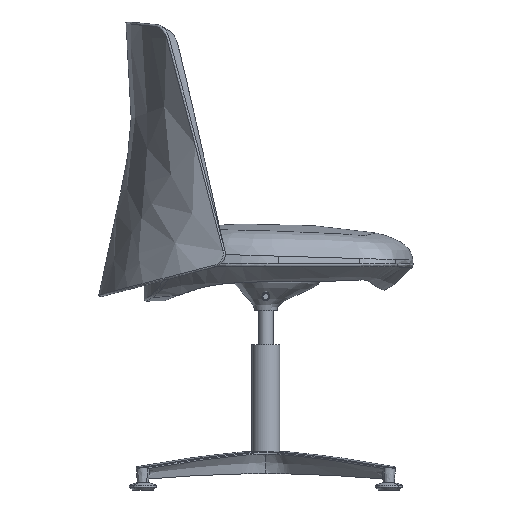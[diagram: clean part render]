
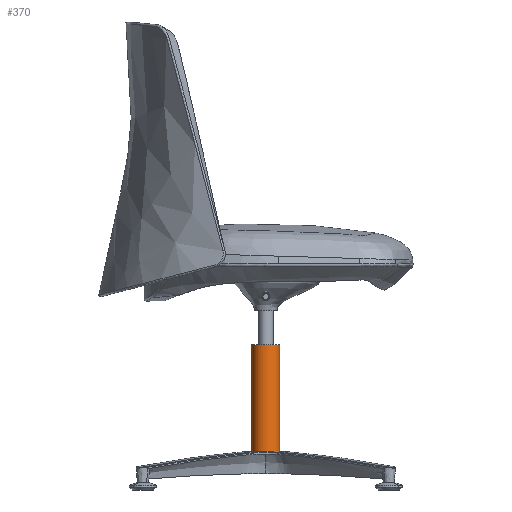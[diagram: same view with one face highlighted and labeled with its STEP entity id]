
A CAD part, left-side view. The second image highlights one B-rep face of the part: STEP entity #370.
In plain terms, the highlighted free-form (B-spline) face has degree [2, 1] with [5, 2] control points.
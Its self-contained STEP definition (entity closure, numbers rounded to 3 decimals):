
#370=ADVANCED_FACE('',(#535),#2333,.T.);
#535=FACE_OUTER_BOUND('',#700,.T.);
#700=EDGE_LOOP('',(#867,#868,#869,#870));
#867=ORIENTED_EDGE('',*,*,#1572,.T.);
#868=ORIENTED_EDGE('',*,*,#1571,.F.);
#869=ORIENTED_EDGE('',*,*,#1570,.F.);
#870=ORIENTED_EDGE('',*,*,#1569,.T.);
#1569=EDGE_CURVE('',#2093,#2094,#1956,.T.);
#1570=EDGE_CURVE('',#2093,#2092,#1957,.T.);
#1571=EDGE_CURVE('',#2092,#2095,#1958,.T.);
#1572=EDGE_CURVE('',#2094,#2095,#1959,.T.);
#1956=(
BOUNDED_CURVE()
B_SPLINE_CURVE(2,(#2651,#2652,#2653,#2654,#2655),.UNSPECIFIED.,.F.,.F.)
B_SPLINE_CURVE_WITH_KNOTS((3,2,3),(0.,39.27,78.54),
 .UNSPECIFIED.)
CURVE()
GEOMETRIC_REPRESENTATION_ITEM()
RATIONAL_B_SPLINE_CURVE((1.,0.707,1.,0.707,1.))
REPRESENTATION_ITEM('')
);
#1957=(
BOUNDED_CURVE()
B_SPLINE_CURVE(1,(#2656,#2657),.UNSPECIFIED.,.F.,.F.)
B_SPLINE_CURVE_WITH_KNOTS((2,2),(0.,200.),.UNSPECIFIED.)
CURVE()
GEOMETRIC_REPRESENTATION_ITEM()
RATIONAL_B_SPLINE_CURVE((1.,1.))
REPRESENTATION_ITEM('')
);
#1958=(
BOUNDED_CURVE()
B_SPLINE_CURVE(2,(#2658,#2659,#2660,#2661,#2662),.UNSPECIFIED.,.F.,.F.)
B_SPLINE_CURVE_WITH_KNOTS((3,2,3),(0.,39.27,78.54),
 .UNSPECIFIED.)
CURVE()
GEOMETRIC_REPRESENTATION_ITEM()
RATIONAL_B_SPLINE_CURVE((1.,0.707,1.,0.707,1.))
REPRESENTATION_ITEM('')
);
#1959=(
BOUNDED_CURVE()
B_SPLINE_CURVE(1,(#2663,#2664),.UNSPECIFIED.,.F.,.F.)
B_SPLINE_CURVE_WITH_KNOTS((2,2),(0.,200.),.UNSPECIFIED.)
CURVE()
GEOMETRIC_REPRESENTATION_ITEM()
RATIONAL_B_SPLINE_CURVE((1.,1.))
REPRESENTATION_ITEM('')
);
#2092=VERTEX_POINT('',#2647);
#2093=VERTEX_POINT('',#2648);
#2094=VERTEX_POINT('',#2649);
#2095=VERTEX_POINT('',#2650);
#2333=(
BOUNDED_SURFACE()
B_SPLINE_SURFACE(2,1,((#2627,#2628),(#2629,#2630),(#2631,#2632),(#2633,
#2634),(#2635,#2636)),.UNSPECIFIED.,.F.,.F.,.F.)
B_SPLINE_SURFACE_WITH_KNOTS((3,2,3),(2,2),(0.,39.27,78.54),
(0.,200.),.UNSPECIFIED.)
GEOMETRIC_REPRESENTATION_ITEM()
RATIONAL_B_SPLINE_SURFACE(((1.,1.),(0.707,0.707),
(1.,1.),(0.707,0.707),(1.,1.)))
REPRESENTATION_ITEM('')
SURFACE()
);
#2627=CARTESIAN_POINT('',(0.,25.,59.087));
#2628=CARTESIAN_POINT('',(0.,25.,259.087));
#2629=CARTESIAN_POINT('',(-25.,25.,59.087));
#2630=CARTESIAN_POINT('',(-25.,25.,259.087));
#2631=CARTESIAN_POINT('',(-25.,0.,59.087));
#2632=CARTESIAN_POINT('',(-25.,0.,259.087));
#2633=CARTESIAN_POINT('',(-25.,-25.,59.087));
#2634=CARTESIAN_POINT('',(-25.,-25.,259.087));
#2635=CARTESIAN_POINT('',(0.,-25.,59.087));
#2636=CARTESIAN_POINT('',(0.,-25.,259.087));
#2647=CARTESIAN_POINT('',(0.,25.,259.087));
#2648=CARTESIAN_POINT('',(0.,25.,59.087));
#2649=CARTESIAN_POINT('',(0.,-25.,59.087));
#2650=CARTESIAN_POINT('',(0.,-25.,259.087));
#2651=CARTESIAN_POINT('',(0.,25.,59.087));
#2652=CARTESIAN_POINT('',(-25.,25.,59.087));
#2653=CARTESIAN_POINT('',(-25.,0.,59.087));
#2654=CARTESIAN_POINT('',(-25.,-25.,59.087));
#2655=CARTESIAN_POINT('',(0.,-25.,59.087));
#2656=CARTESIAN_POINT('',(0.,25.,59.087));
#2657=CARTESIAN_POINT('',(0.,25.,259.087));
#2658=CARTESIAN_POINT('',(0.,25.,259.087));
#2659=CARTESIAN_POINT('',(-25.,25.,259.087));
#2660=CARTESIAN_POINT('',(-25.,0.,259.087));
#2661=CARTESIAN_POINT('',(-25.,-25.,259.087));
#2662=CARTESIAN_POINT('',(0.,-25.,259.087));
#2663=CARTESIAN_POINT('',(0.,-25.,59.087));
#2664=CARTESIAN_POINT('',(0.,-25.,259.087));
